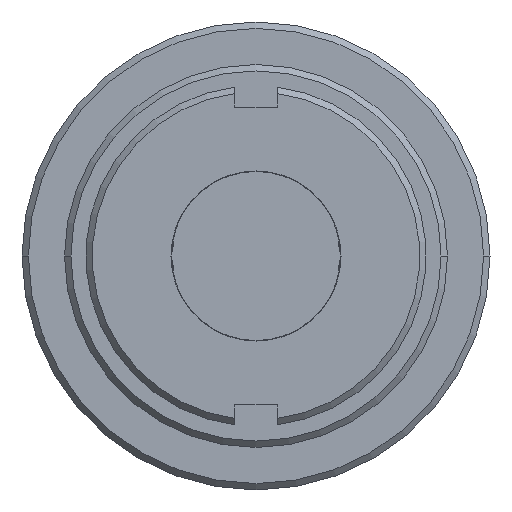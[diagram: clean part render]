
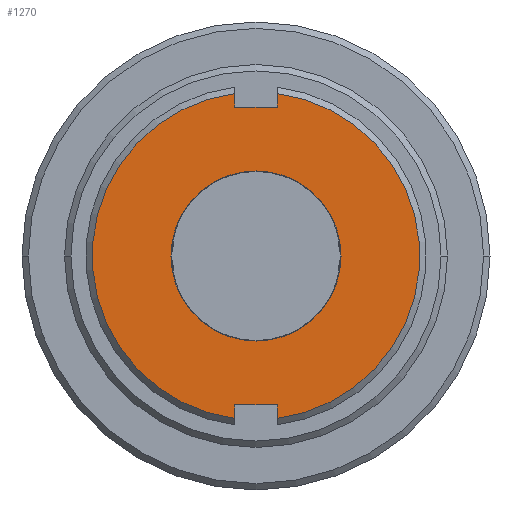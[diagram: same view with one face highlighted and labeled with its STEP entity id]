
A CAD part, left-side view. The second image highlights one B-rep face of the part: STEP entity #1270.
In plain terms, the highlighted planar face has unit normal (-1, 0, 0).
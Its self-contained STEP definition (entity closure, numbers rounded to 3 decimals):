
#150=CARTESIAN_POINT('',(39.573,-64.,
-7.635));
#160=VERTEX_POINT('',#150);
#350=CARTESIAN_POINT('',(39.573,-64.,
7.635));
#360=VERTEX_POINT('',#350);
#390=CARTESIAN_POINT('',(39.573,-65.,0.));
#400=DIRECTION('',(-1.,0.,-0.));
#410=DIRECTION('',(0.,1.,0.));
#420=AXIS2_PLACEMENT_3D('',#390,#400,#410);
#430=CIRCLE('',#420,7.7);
#440=EDGE_CURVE('',#360,#160,#430,.T.);
#490=CARTESIAN_POINT('',(39.573,-59.15,0.));
#500=DIRECTION('',(1.,0.,0.));
#510=DIRECTION('',(0.,-1.,0.));
#520=AXIS2_PLACEMENT_3D('',#490,#500,#510);
#530=PLANE('',#520);
#540=CARTESIAN_POINT('',(39.573,-64.,
7.635));
#550=DIRECTION('',(0.,0.,-1.));
#560=VECTOR('',#550,1.);
#570=LINE('',#540,#560);
#580=CARTESIAN_POINT('',(39.573,-64.,
7.));
#590=VERTEX_POINT('',#580);
#600=EDGE_CURVE('',#360,#590,#570,.T.);
#610=ORIENTED_EDGE('',*,*,#600,.F.);
#620=CARTESIAN_POINT('',(39.573,-64.,
7.));
#630=DIRECTION('',(0.,-1.,0.));
#640=VECTOR('',#630,1.);
#650=LINE('',#620,#640);
#660=CARTESIAN_POINT('',(39.573,-66.,
7.));
#670=VERTEX_POINT('',#660);
#680=EDGE_CURVE('',#590,#670,#650,.T.);
#690=ORIENTED_EDGE('',*,*,#680,.F.);
#700=CARTESIAN_POINT('',(39.573,-66.,
7.));
#710=DIRECTION('',(0.,0.,1.));
#720=VECTOR('',#710,1.);
#730=LINE('',#700,#720);
#740=CARTESIAN_POINT('',(39.573,-66.,
7.635));
#750=VERTEX_POINT('',#740);
#760=EDGE_CURVE('',#670,#750,#730,.T.);
#770=ORIENTED_EDGE('',*,*,#760,.F.);
#780=CARTESIAN_POINT('',(39.573,-65.,0.));
#790=DIRECTION('',(-1.,-0.,0.));
#800=DIRECTION('',(0.,-0.13,-0.992));
#810=AXIS2_PLACEMENT_3D('',#780,#790,#800);
#820=CIRCLE('',#810,7.7);
#830=CARTESIAN_POINT('',(39.573,-66.,
-7.635));
#840=VERTEX_POINT('',#830);
#850=EDGE_CURVE('',#840,#750,#820,.T.);
#860=ORIENTED_EDGE('',*,*,#850,.T.);
#870=CARTESIAN_POINT('',(39.573,-66.,
-7.635));
#880=DIRECTION('',(0.,0.,1.));
#890=VECTOR('',#880,1.);
#900=LINE('',#870,#890);
#910=CARTESIAN_POINT('',(39.573,-66.,
-7.));
#920=VERTEX_POINT('',#910);
#930=EDGE_CURVE('',#840,#920,#900,.T.);
#940=ORIENTED_EDGE('',*,*,#930,.F.);
#950=CARTESIAN_POINT('',(39.573,-66.,
-7.));
#960=DIRECTION('',(0.,1.,0.));
#970=VECTOR('',#960,1.);
#980=LINE('',#950,#970);
#990=CARTESIAN_POINT('',(39.573,-64.,
-7.));
#1000=VERTEX_POINT('',#990);
#1010=EDGE_CURVE('',#920,#1000,#980,.T.);
#1020=ORIENTED_EDGE('',*,*,#1010,.F.);
#1030=CARTESIAN_POINT('',(39.573,-64.,
-7.));
#1040=DIRECTION('',(0.,0.,-1.));
#1050=VECTOR('',#1040,1.);
#1060=LINE('',#1030,#1050);
#1070=EDGE_CURVE('',#1000,#160,#1060,.T.);
#1080=ORIENTED_EDGE('',*,*,#1070,.F.);
#1090=ORIENTED_EDGE('',*,*,#440,.T.);
#1100=EDGE_LOOP('',(#1090,#1080,#1020,#940,#860,#770,#690,#610));
#1110=FACE_OUTER_BOUND('',#1100,.T.);
#1120=CARTESIAN_POINT('',(39.573,-65.,0.));
#1130=DIRECTION('',(1.,0.,0.));
#1140=DIRECTION('',(0.,1.,0.));
#1150=AXIS2_PLACEMENT_3D('',#1120,#1130,#1140);
#1160=CIRCLE('',#1150,4.);
#1170=CARTESIAN_POINT('',(39.573,-61.,
0.));
#1180=VERTEX_POINT('',#1170);
#1190=CARTESIAN_POINT('',(39.573,-69.,0.));
#1200=VERTEX_POINT('',#1190);
#1210=EDGE_CURVE('',#1180,#1200,#1160,.T.);
#1220=ORIENTED_EDGE('',*,*,#1210,.T.);
#1230=EDGE_CURVE('',#1200,#1180,#1160,.T.);
#1240=ORIENTED_EDGE('',*,*,#1230,.T.);
#1250=EDGE_LOOP('',(#1240,#1220));
#1260=FACE_BOUND('',#1250,.T.);
#1270=ADVANCED_FACE('',(#1110,#1260),#530,.F.);
